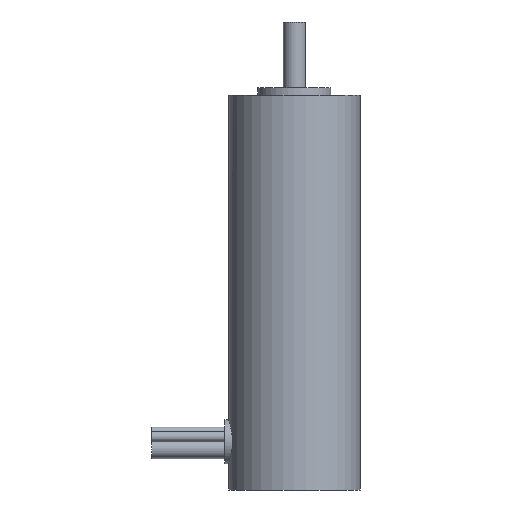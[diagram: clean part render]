
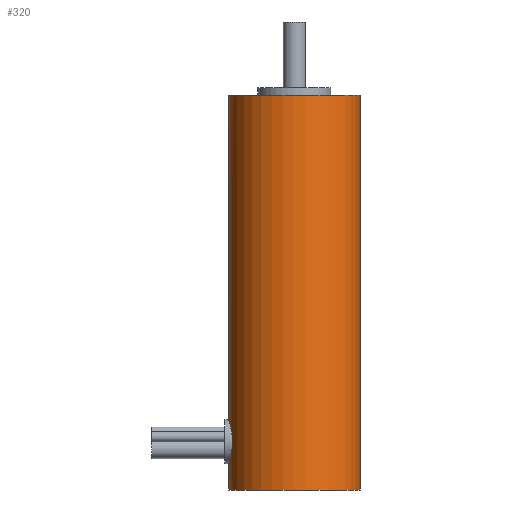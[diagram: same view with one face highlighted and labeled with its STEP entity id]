
A CAD part, left-side view. The second image highlights one B-rep face of the part: STEP entity #320.
In plain terms, the highlighted cylindrical face has radius 9 mm (diameter 18 mm), a partial arc.
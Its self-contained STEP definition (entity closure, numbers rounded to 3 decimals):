
#5 = CARTESIAN_POINT ( 'NONE',  ( -2.601, 8.617, -48.908 ) ) ;
#35 = DIRECTION ( 'NONE',  ( 0., 0., -1. ) ) ;
#37 = CARTESIAN_POINT ( 'NONE',  ( -2.62, 8.612, -45.887 ) ) ;
#49 = VERTEX_POINT ( 'NONE', #933 ) ;
#65 = CARTESIAN_POINT ( 'NONE',  ( -2.903, 8.519, -48.182 ) ) ;
#80 = EDGE_LOOP ( 'NONE', ( #650, #931, #568, #754, #280, #457 ) ) ;
#111 = DIRECTION ( 'NONE',  ( 0., 0., -1. ) ) ;
#112 = CARTESIAN_POINT ( 'NONE',  ( -2.981, 8.492, -47.006 ) ) ;
#115 = CIRCLE ( 'NONE', #288, 9. ) ;
#125 = CARTESIAN_POINT ( 'NONE',  ( 0., 0., -54. ) ) ;
#129 = CARTESIAN_POINT ( 'NONE',  ( 0., -9., -54. ) ) ;
#132 = DIRECTION ( 'NONE',  ( 0., 1., 0. ) ) ;
#133 = CARTESIAN_POINT ( 'NONE',  ( -1.333, 8.903, -50.095 ) ) ;
#138 = CARTESIAN_POINT ( 'NONE',  ( -3., 8.485, -47.596 ) ) ;
#140 = VERTEX_POINT ( 'NONE', #617 ) ;
#144 = CARTESIAN_POINT ( 'NONE',  ( -0.197, 9., -50.4 ) ) ;
#180 = DIRECTION ( 'NONE',  ( 0., 1., 0. ) ) ;
#186 = CARTESIAN_POINT ( 'NONE',  ( -2.903, 8.519, -46.618 ) ) ;
#188 = CARTESIAN_POINT ( 'NONE',  ( 0., 0., 0. ) ) ;
#190 = VERTEX_POINT ( 'NONE', #129 ) ;
#194 = CARTESIAN_POINT ( 'NONE',  ( -0.2, 9., -44.4 ) ) ;
#204 = CIRCLE ( 'NONE', #579, 9. ) ;
#208 = CARTESIAN_POINT ( 'NONE',  ( -0.396, 8.993, -50.38 ) ) ;
#215 = CARTESIAN_POINT ( 'NONE',  ( -0.971, 8.949, -50.245 ) ) ;
#239 = EDGE_CURVE ( 'NONE', #190, #49, #115, .T. ) ;
#253 = CARTESIAN_POINT ( 'NONE',  ( -0.973, 8.949, -44.555 ) ) ;
#272 = VECTOR ( 'NONE', #633, 1000. ) ;
#276 = CARTESIAN_POINT ( 'NONE',  ( 0., -9., -54. ) ) ;
#280 = ORIENTED_EDGE ( 'NONE', *, *, #761, .T. ) ;
#282 = EDGE_CURVE ( 'NONE', #370, #190, #422, .T. ) ;
#286 = CARTESIAN_POINT ( 'NONE',  ( 0., 0., -54. ) ) ;
#287 = CARTESIAN_POINT ( 'NONE',  ( -1.832, 8.813, -49.783 ) ) ;
#288 = AXIS2_PLACEMENT_3D ( 'NONE', #286, #805, #132 ) ;
#293 = CARTESIAN_POINT ( 'NONE',  ( -2.384, 8.679, -49.231 ) ) ;
#306 = AXIS2_PLACEMENT_3D ( 'NONE', #125, #583, #859 ) ;
#320 = ADVANCED_FACE ( 'NONE', ( #731 ), #639, .T. ) ;
#337 = LINE ( 'NONE', #844, #736 ) ;
#366 = CARTESIAN_POINT ( 'NONE',  ( -1.508, 8.874, -50.001 ) ) ;
#367 = CARTESIAN_POINT ( 'NONE',  ( 0., 9., 0. ) ) ;
#370 = VERTEX_POINT ( 'NONE', #773 ) ;
#371 = CARTESIAN_POINT ( 'NONE',  ( -2.846, 8.539, -48.37 ) ) ;
#403 = CARTESIAN_POINT ( 'NONE',  ( -1.832, 8.813, -45.017 ) ) ;
#409 = CARTESIAN_POINT ( 'NONE',  ( -3., 8.485, -47.201 ) ) ;
#422 = LINE ( 'NONE', #276, #272 ) ;
#434 = B_SPLINE_CURVE_WITH_KNOTS ( 'NONE', 3,
 ( #852, #194, #932, #492, #253, #550, #631, #403, #840, #486, #37, #557, #186, #112, #409, #138, #943, #65, #371, #653, #5, #293, #575, #796, #287, #366, #133, #215, #519, #208, #144, #522 ),
 .UNSPECIFIED., .F., .F.,
 ( 4, 2, 2, 2, 2, 2, 2, 2, 2, 2, 2, 2, 2, 2, 2, 4 ),
 ( 0., 0.001, 0.001, 0.002, 0.002, 0.004, 0.004, 0.005, 0.005, 0.006, 0.006, 0.007, 0.008, 0.008, 0.009, 0.009 ),
 .UNSPECIFIED. ) ;
#440 = EDGE_CURVE ( 'NONE', #499, #140, #434, .T. ) ;
#457 = ORIENTED_EDGE ( 'NONE', *, *, #239, .F. ) ;
#486 = CARTESIAN_POINT ( 'NONE',  ( -2.397, 8.68, -45.554 ) ) ;
#492 = CARTESIAN_POINT ( 'NONE',  ( -0.781, 8.968, -44.497 ) ) ;
#499 = VERTEX_POINT ( 'NONE', #744 ) ;
#519 = CARTESIAN_POINT ( 'NONE',  ( -0.784, 8.968, -50.302 ) ) ;
#522 = CARTESIAN_POINT ( 'NONE',  ( 0., 9., -50.4 ) ) ;
#550 = CARTESIAN_POINT ( 'NONE',  ( -1.335, 8.902, -44.706 ) ) ;
#557 = CARTESIAN_POINT ( 'NONE',  ( -2.845, 8.539, -46.427 ) ) ;
#568 = ORIENTED_EDGE ( 'NONE', *, *, #836, .T. ) ;
#575 = CARTESIAN_POINT ( 'NONE',  ( -2.259, 8.713, -49.384 ) ) ;
#579 = AXIS2_PLACEMENT_3D ( 'NONE', #188, #35, #180 ) ;
#583 = DIRECTION ( 'NONE',  ( 0., 0., -1. ) ) ;
#617 = CARTESIAN_POINT ( 'NONE',  ( 0., 9., -50.4 ) ) ;
#631 = CARTESIAN_POINT ( 'NONE',  ( -1.507, 8.874, -44.799 ) ) ;
#633 = DIRECTION ( 'NONE',  ( 0., 0., -1. ) ) ;
#639 = CYLINDRICAL_SURFACE ( 'NONE', #306, 9. ) ;
#650 = ORIENTED_EDGE ( 'NONE', *, *, #282, .F. ) ;
#653 = CARTESIAN_POINT ( 'NONE',  ( -2.694, 8.588, -48.735 ) ) ;
#731 = FACE_OUTER_BOUND ( 'NONE', #80, .T. ) ;
#736 = VECTOR ( 'NONE', #111, 1000. ) ;
#743 = EDGE_CURVE ( 'NONE', #370, #858, #204, .T. ) ;
#744 = CARTESIAN_POINT ( 'NONE',  ( 0., 9., -44.4 ) ) ;
#745 = LINE ( 'NONE', #817, #896 ) ;
#754 = ORIENTED_EDGE ( 'NONE', *, *, #440, .T. ) ;
#761 = EDGE_CURVE ( 'NONE', #140, #49, #337, .T. ) ;
#773 = CARTESIAN_POINT ( 'NONE',  ( 0., -9., 0. ) ) ;
#796 = CARTESIAN_POINT ( 'NONE',  ( -1.982, 8.78, -49.66 ) ) ;
#805 = DIRECTION ( 'NONE',  ( 0., 0., -1. ) ) ;
#817 = CARTESIAN_POINT ( 'NONE',  ( 0., 9., -54. ) ) ;
#821 = DIRECTION ( 'NONE',  ( 0., 0., -1. ) ) ;
#836 = EDGE_CURVE ( 'NONE', #858, #499, #745, .T. ) ;
#840 = CARTESIAN_POINT ( 'NONE',  ( -1.985, 8.78, -45.142 ) ) ;
#844 = CARTESIAN_POINT ( 'NONE',  ( 0., 9., -54. ) ) ;
#852 = CARTESIAN_POINT ( 'NONE',  ( 0., 9., -44.4 ) ) ;
#858 = VERTEX_POINT ( 'NONE', #367 ) ;
#859 = DIRECTION ( 'NONE',  ( 0., 1., 0. ) ) ;
#896 = VECTOR ( 'NONE', #821, 1000. ) ;
#931 = ORIENTED_EDGE ( 'NONE', *, *, #743, .T. ) ;
#932 = CARTESIAN_POINT ( 'NONE',  ( -0.396, 8.993, -44.42 ) ) ;
#933 = CARTESIAN_POINT ( 'NONE',  ( 0., 9., -54. ) ) ;
#943 = CARTESIAN_POINT ( 'NONE',  ( -2.98, 8.492, -47.796 ) ) ;
